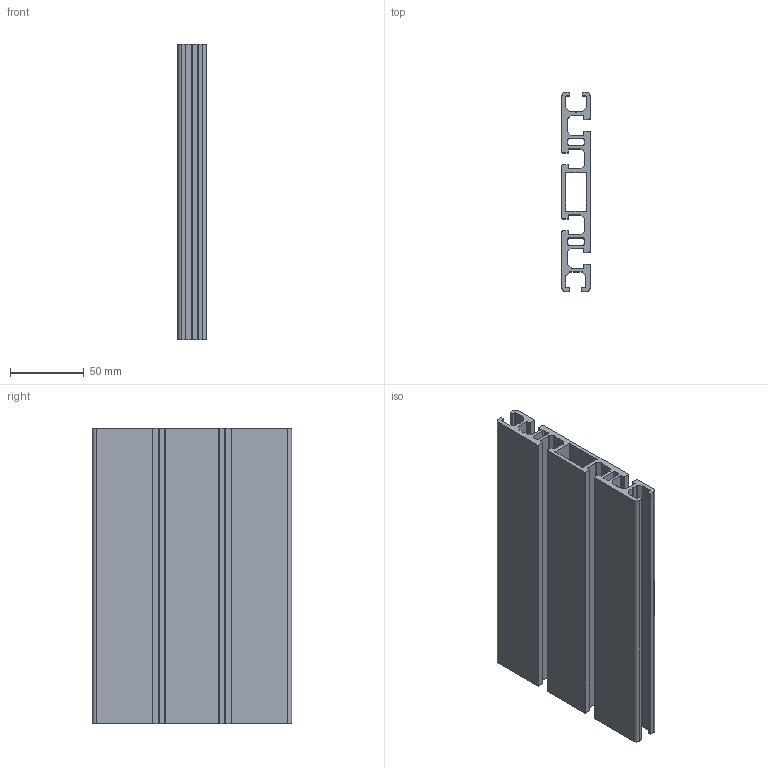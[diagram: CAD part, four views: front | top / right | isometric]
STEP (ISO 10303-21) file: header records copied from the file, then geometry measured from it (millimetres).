
FILE_DESCRIPTION (( 'STEP AP203' ), '1' );
FILE_NAME ('013977 REF 19135.STEP', '2015-12-01T11:52:00', ( '' ), ( '' ), 'SwSTEP 2.0', 'SolidWorks 2015', '' );
FILE_SCHEMA (( 'CONFIG_CONTROL_DESIGN' ));
Length unit declared in the file: millimetre
Products named in the file (1): 013977 REF 19135
Bounding box: 19 x 135 x 200 mm (x, y, z)
Volume: 209825 mm3; surface area: 134944.7 mm2
Topology: 1 solids, 1 shells, 175 faces, 519 edges, 346 vertices
Faces by surface type: cylinder 91, plane 84
Entity records: 6004 total; most frequent: DIRECTION 1053, CARTESIAN_POINT 1041, ORIENTED_EDGE 1038, EDGE_CURVE 519, AXIS2_PLACEMENT_3D 358, VERTEX_POINT 346, LINE 337, VECTOR 337
